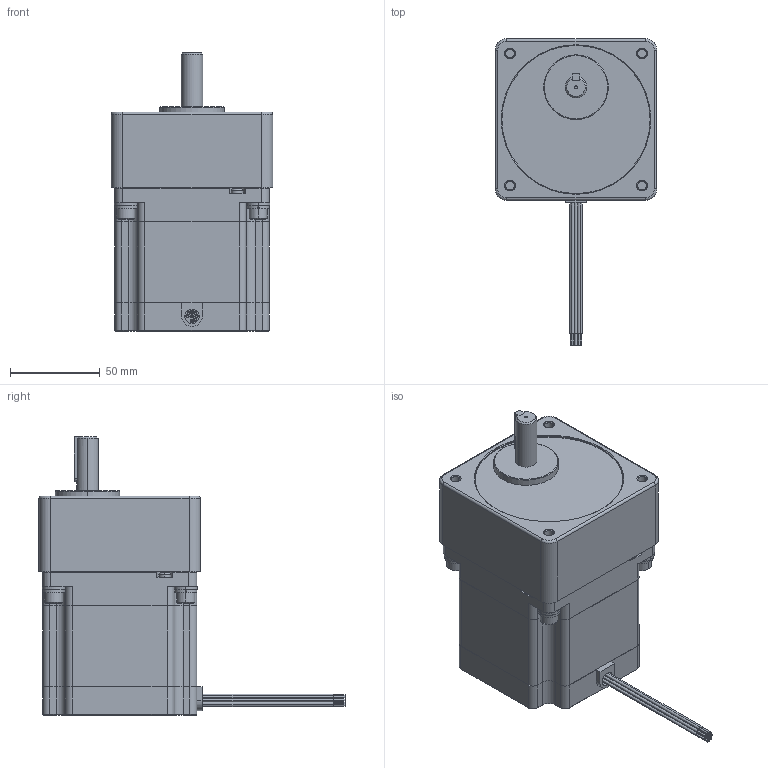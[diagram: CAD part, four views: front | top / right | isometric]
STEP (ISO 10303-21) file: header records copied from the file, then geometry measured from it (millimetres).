
FILE_DESCRIPTION (( 'STEP AP214' ), '1' );
FILE_NAME ('34YSG108S-LW8-R12.5.STEP', '2010-06-18T16:38:13', ( 'Tim Raines' ), ( 'Anaheim Automation' ), 'SwSTEP 2.0', 'SolidWorks 2010', '' );
FILE_SCHEMA (( 'AUTOMOTIVE_DESIGN' ));
Length unit declared in the file: millimetre
Products named in the file (6): Socket Head Cap Screw_AM_B18.3.1M - 6 x 1.0 x 20 Hex SHCS -- 20NHX; 34YSG108S-LW8-R12.5; Lock Washer Spring Regular_AI_Regular LW 0.25; 34SG Series_34SG1; 34YSG Motor_34YSG108S-LW8; Flat Washer Narrow_AM_B18.22M - Plain washer, 6 mm, narrow
Assembly tree (14 placements, depth 2):
  34YSG108S-LW8-R12.5
    34YSG Motor_34YSG108S-LW8
    Socket Head Cap Screw_AM_B18.3.1M - 6 x 1.0 x 20 Hex SHCS -- 20NHX  x4
    Lock Washer Spring Regular_AI_Regular LW 0.25  x4
    Flat Washer Narrow_AM_B18.22M - Plain washer, 6 mm, narrow  x4
    34SG Series_34SG1
Bounding box: 89.92 x 170.43 x 155.02 mm (x, y, z)
Volume: 868143.6 mm3; surface area: 89475 mm2
Topology: 14 solids, 14 shells, 575 faces, 1363 edges, 848 vertices
Faces by surface type: plane 272, cylinder 190, cone 93, torus 20
Entity records: 18465 total; most frequent: CARTESIAN_POINT 2581, DIRECTION 2415, ORIENTED_EDGE 2214, EDGE_CURVE 1107, AXIS2_PLACEMENT_3D 895, VERTEX_POINT 701, VECTOR 625, LINE 625
